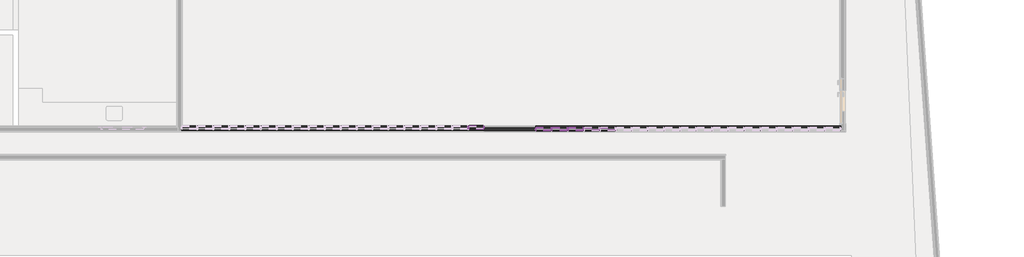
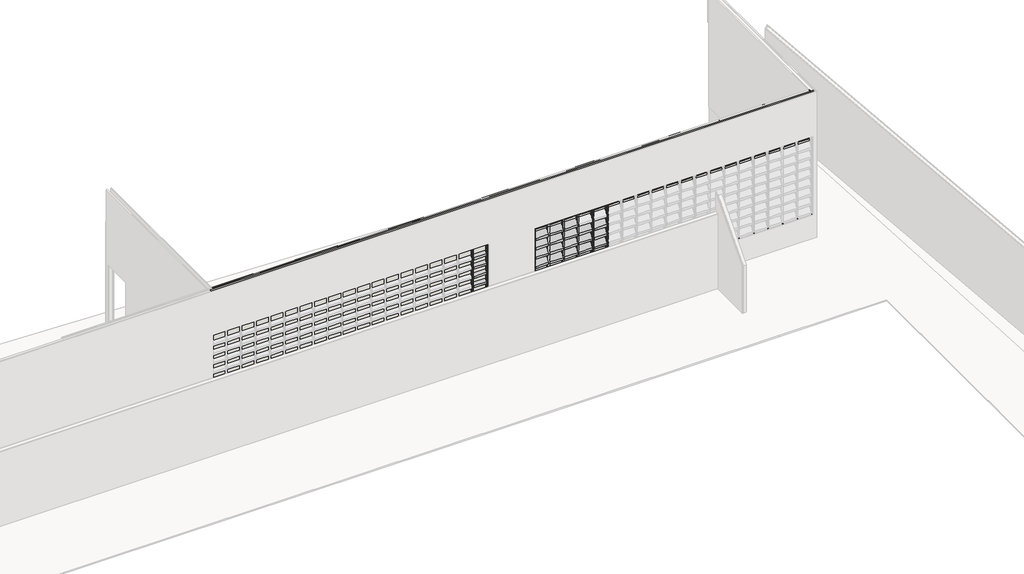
# One storey, part 24 of 28: 126 members, 3 walls.
"""IFC4 building model written with IfcOpenShell, lengths in millimetres."""

from ifc_helpers import new_model, si_unit, frame, origin, place, context, project, spatial, polyline, outline, extrude, faceted_brep, transform, mapped, element, save
from components import montante_retangular_02d07947, montante_retangular_70ba8f4d, montante_retangular_d2e0df8b, montante_retangular_b3938234, montante_retangular_ace9eee9, montante_retangular_c959cb71, montante_retangular_542d65e8, montante_retangular_afd96132, montante_retangular_e99c3e47, montante_retangular_16e63d6c

model = new_model("IFC4")

# Units and contexts
model_context = context("Model", 3, world=origin())
ifc_project = project(units=[si_unit("LENGTHUNIT", "METRE", prefix="MILLI")], contexts=[model_context])

# Site, building, storey
site = spatial("IfcSite", under=ifc_project)
building = spatial("IfcBuilding", under=site)
storey = spatial("IfcBuildingStorey", under=building, Name="Térreo", Elevation=0.0)

# Members
placement = place(None, origin())
montante_retangular_shape = montante_retangular_02d07947(model_context)
element("IfcMember", 1, ObjectType="Montante retangular : FDE_MontanteVenezianaIndustrial_Intermediário_Ref50 (Alumínio Anodizado)", at=placement, inside=storey, context=model_context, shape_type="MappedRepresentation", body=[
    mapped(montante_retangular_shape, transform((-37997.8947371, 48589.0879102, 925.0), x_axis=(1.0, 0.0, 0.0), y_axis=(0.0, -1.0, 0.0), z_axis=(0.0, 0.0, -1.0))),
])
element("IfcMember", 2, ObjectType="Montante retangular : FDE_MontanteVenezianaIndustrial_Intermediário_Ref50 (Alumínio Anodizado)", at=placement, inside=storey, context=model_context, shape_type="MappedRepresentation", body=[
    mapped(montante_retangular_shape, transform((-35888.4210524, 48544.0879102, 925.0), x_axis=(1.0, 0.0, 0.0), y_axis=(0.0, -1.0, 0.0), z_axis=(0.0, 0.0, -1.0))),
])
element("IfcMember", 3, ObjectType="Montante retangular : FDE_MontanteVenezianaIndustrial_Intermediário_Ref50 (Alumínio Anodizado)", at=placement, inside=storey, context=model_context, shape_type="MappedRepresentation", body=[
    mapped(montante_retangular_shape, transform((-35481.842105, 48544.0879102, 925.0), x_axis=(1.0, 0.0, 0.0), y_axis=(0.0, -1.0, 0.0), z_axis=(0.0, 0.0, -1.0))),
])
element("IfcMember", 4, ObjectType="Montante retangular : FDE_MontanteVenezianaIndustrial_Intermediário_Ref50 (Alumínio Anodizado)", at=placement, inside=storey, context=model_context, shape_type="MappedRepresentation", body=[
    mapped(montante_retangular_shape, transform((-35075.2631577, 48544.0879102, 925.0), x_axis=(1.0, 0.0, 0.0), y_axis=(0.0, -1.0, 0.0), z_axis=(0.0, 0.0, -1.0))),
])
element("IfcMember", 5, ObjectType="Montante retangular : FDE_MontanteVenezianaIndustrial_Intermediário_Ref50 (Alumínio Anodizado)", at=placement, inside=storey, context=model_context, shape_type="MappedRepresentation", body=[
    mapped(montante_retangular_shape, transform((-34668.6842103, 48544.0879102, 925.0), x_axis=(1.0, 0.0, 0.0), y_axis=(0.0, -1.0, 0.0), z_axis=(0.0, 0.0, -1.0))),
])
element("IfcMember", 6, ObjectType="Montante retangular : FDE_MontanteVenezianaIndustrial_Intermediário_Ref50 (Alumínio Anodizado)", at=placement, inside=storey, context=model_context, shape_type="MappedRepresentation", body=[
    mapped(montante_retangular_shape, transform((-34262.105263, 48544.0879102, 925.0), x_axis=(1.0, 0.0, 0.0), y_axis=(0.0, -1.0, 0.0), z_axis=(0.0, 0.0, -1.0))),
])
montante_retangular_2_shape = montante_retangular_70ba8f4d(model_context)
element("IfcMember", 7, ObjectType="Montante retangular : FDE_MontanteVenezianaIndustrial_Intermediário_Ref50 (Alumínio Anodizado)", at=placement, inside=storey, context=model_context, shape_type="MappedRepresentation", body=[
    mapped(montante_retangular_2_shape, transform((-37997.8947371, 48589.0879102, 1174.0), x_axis=(1.0, 0.0, 0.0), y_axis=(0.0, -1.0, 0.0), z_axis=(0.0, 0.0, -1.0))),
])
element("IfcMember", 8, ObjectType="Montante retangular : FDE_MontanteVenezianaIndustrial_Intermediário_Ref50 (Alumínio Anodizado)", at=placement, inside=storey, context=model_context, shape_type="MappedRepresentation", body=[
    mapped(montante_retangular_2_shape, transform((-37997.8947371, 48589.0879102, 1448.0), x_axis=(1.0, 0.0, 0.0), y_axis=(0.0, -1.0, 0.0), z_axis=(0.0, 0.0, -1.0))),
])
element("IfcMember", 9, ObjectType="Montante retangular : FDE_MontanteVenezianaIndustrial_Intermediário_Ref50 (Alumínio Anodizado)", at=placement, inside=storey, context=model_context, shape_type="MappedRepresentation", body=[
    mapped(montante_retangular_2_shape, transform((-37997.8947371, 48589.0879102, 1722.0), x_axis=(1.0, 0.0, 0.0), y_axis=(0.0, -1.0, 0.0), z_axis=(0.0, 0.0, -1.0))),
])
element("IfcMember", 10, ObjectType="Montante retangular : FDE_MontanteVenezianaIndustrial_Intermediário_Ref50 (Alumínio Anodizado)", at=placement, inside=storey, context=model_context, shape_type="MappedRepresentation", body=[
    mapped(montante_retangular_2_shape, transform((-37997.8947371, 48589.0879102, 1996.0), x_axis=(1.0, 0.0, 0.0), y_axis=(0.0, -1.0, 0.0), z_axis=(0.0, 0.0, -1.0))),
])
element("IfcMember", 11, ObjectType="Montante retangular : FDE_MontanteVenezianaIndustrial_Intermediário_Ref50 (Alumínio Anodizado)", at=placement, inside=storey, context=model_context, shape_type="MappedRepresentation", body=[
    mapped(montante_retangular_2_shape, transform((-37997.8947371, 48589.0879102, 2270.0), x_axis=(1.0, 0.0, 0.0), y_axis=(0.0, -1.0, 0.0), z_axis=(0.0, 0.0, -1.0))),
])
element("IfcMember", 12, ObjectType="Montante retangular : FDE_MontanteVenezianaIndustrial_Intermediário_Ref50 (Alumínio Anodizado)", at=placement, inside=storey, context=model_context, shape_type="MappedRepresentation", body=[
    mapped(montante_retangular_2_shape, transform((-37997.8947371, 48589.0879102, 2544.0), x_axis=(1.0, 0.0, 0.0), y_axis=(0.0, -1.0, 0.0), z_axis=(0.0, 0.0, -1.0))),
])
element("IfcMember", 13, ObjectType="Montante retangular : FDE_MontanteVenezianaIndustrial_Intermediário_Ref50 (Alumínio Anodizado)", at=placement, inside=storey, context=model_context, shape_type="MappedRepresentation", body=[
    mapped(montante_retangular_2_shape, transform((-37997.8947371, 48589.0879102, 2818.0), x_axis=(1.0, 0.0, 0.0), y_axis=(0.0, -1.0, 0.0), z_axis=(0.0, 0.0, -1.0))),
])
element("IfcMember", 14, ObjectType="Montante retangular : FDE_MontanteVenezianaIndustrial_Intermediário_Ref50 (Alumínio Anodizado)", at=placement, inside=storey, context=model_context, shape_type="MappedRepresentation", body=[
    mapped(montante_retangular_2_shape, transform((-35888.4210524, 48544.0879102, 1174.0), x_axis=(1.0, 0.0, 0.0), y_axis=(0.0, -1.0, 0.0), z_axis=(0.0, 0.0, -1.0))),
])
element("IfcMember", 15, ObjectType="Montante retangular : FDE_MontanteVenezianaIndustrial_Intermediário_Ref50 (Alumínio Anodizado)", at=placement, inside=storey, context=model_context, shape_type="MappedRepresentation", body=[
    mapped(montante_retangular_2_shape, transform((-35481.842105, 48544.0879102, 1174.0), x_axis=(1.0, 0.0, 0.0), y_axis=(0.0, -1.0, 0.0), z_axis=(0.0, 0.0, -1.0))),
])
element("IfcMember", 16, ObjectType="Montante retangular : FDE_MontanteVenezianaIndustrial_Intermediário_Ref50 (Alumínio Anodizado)", at=placement, inside=storey, context=model_context, shape_type="MappedRepresentation", body=[
    mapped(montante_retangular_2_shape, transform((-35075.2631577, 48544.0879102, 1174.0), x_axis=(1.0, 0.0, 0.0), y_axis=(0.0, -1.0, 0.0), z_axis=(0.0, 0.0, -1.0))),
])
element("IfcMember", 17, ObjectType="Montante retangular : FDE_MontanteVenezianaIndustrial_Intermediário_Ref50 (Alumínio Anodizado)", at=placement, inside=storey, context=model_context, shape_type="MappedRepresentation", body=[
    mapped(montante_retangular_2_shape, transform((-34668.6842103, 48544.0879102, 1174.0), x_axis=(1.0, 0.0, 0.0), y_axis=(0.0, -1.0, 0.0), z_axis=(0.0, 0.0, -1.0))),
])
element("IfcMember", 18, ObjectType="Montante retangular : FDE_MontanteVenezianaIndustrial_Intermediário_Ref50 (Alumínio Anodizado)", at=placement, inside=storey, context=model_context, shape_type="MappedRepresentation", body=[
    mapped(montante_retangular_2_shape, transform((-34262.105263, 48544.0879102, 1174.0), x_axis=(1.0, 0.0, 0.0), y_axis=(0.0, -1.0, 0.0), z_axis=(0.0, 0.0, -1.0))),
])
element("IfcMember", 19, ObjectType="Montante retangular : FDE_MontanteVenezianaIndustrial_Intermediário_Ref50 (Alumínio Anodizado)", at=placement, inside=storey, context=model_context, shape_type="MappedRepresentation", body=[
    mapped(montante_retangular_2_shape, transform((-35888.4210524, 48544.0879102, 1448.0), x_axis=(1.0, 0.0, 0.0), y_axis=(0.0, -1.0, 0.0), z_axis=(0.0, 0.0, -1.0))),
])
element("IfcMember", 20, ObjectType="Montante retangular : FDE_MontanteVenezianaIndustrial_Intermediário_Ref50 (Alumínio Anodizado)", at=placement, inside=storey, context=model_context, shape_type="MappedRepresentation", body=[
    mapped(montante_retangular_2_shape, transform((-35481.842105, 48544.0879102, 1448.0), x_axis=(1.0, 0.0, 0.0), y_axis=(0.0, -1.0, 0.0), z_axis=(0.0, 0.0, -1.0))),
])
element("IfcMember", 21, ObjectType="Montante retangular : FDE_MontanteVenezianaIndustrial_Intermediário_Ref50 (Alumínio Anodizado)", at=placement, inside=storey, context=model_context, shape_type="MappedRepresentation", body=[
    mapped(montante_retangular_2_shape, transform((-35075.2631577, 48544.0879102, 1448.0), x_axis=(1.0, 0.0, 0.0), y_axis=(0.0, -1.0, 0.0), z_axis=(0.0, 0.0, -1.0))),
])
element("IfcMember", 22, ObjectType="Montante retangular : FDE_MontanteVenezianaIndustrial_Intermediário_Ref50 (Alumínio Anodizado)", at=placement, inside=storey, context=model_context, shape_type="MappedRepresentation", body=[
    mapped(montante_retangular_2_shape, transform((-34668.6842103, 48544.0879102, 1448.0), x_axis=(1.0, 0.0, 0.0), y_axis=(0.0, -1.0, 0.0), z_axis=(0.0, 0.0, -1.0))),
])
element("IfcMember", 23, ObjectType="Montante retangular : FDE_MontanteVenezianaIndustrial_Intermediário_Ref50 (Alumínio Anodizado)", at=placement, inside=storey, context=model_context, shape_type="MappedRepresentation", body=[
    mapped(montante_retangular_2_shape, transform((-34262.105263, 48544.0879102, 1448.0), x_axis=(1.0, 0.0, 0.0), y_axis=(0.0, -1.0, 0.0), z_axis=(0.0, 0.0, -1.0))),
])
element("IfcMember", 24, ObjectType="Montante retangular : FDE_MontanteVenezianaIndustrial_Intermediário_Ref50 (Alumínio Anodizado)", at=placement, inside=storey, context=model_context, shape_type="MappedRepresentation", body=[
    mapped(montante_retangular_2_shape, transform((-35888.4210524, 48544.0879102, 1722.0), x_axis=(1.0, 0.0, 0.0), y_axis=(0.0, -1.0, 0.0), z_axis=(0.0, 0.0, -1.0))),
])
element("IfcMember", 25, ObjectType="Montante retangular : FDE_MontanteVenezianaIndustrial_Intermediário_Ref50 (Alumínio Anodizado)", at=placement, inside=storey, context=model_context, shape_type="MappedRepresentation", body=[
    mapped(montante_retangular_2_shape, transform((-35481.842105, 48544.0879102, 1722.0), x_axis=(1.0, 0.0, 0.0), y_axis=(0.0, -1.0, 0.0), z_axis=(0.0, 0.0, -1.0))),
])
element("IfcMember", 26, ObjectType="Montante retangular : FDE_MontanteVenezianaIndustrial_Intermediário_Ref50 (Alumínio Anodizado)", at=placement, inside=storey, context=model_context, shape_type="MappedRepresentation", body=[
    mapped(montante_retangular_2_shape, transform((-35075.2631577, 48544.0879102, 1722.0), x_axis=(1.0, 0.0, 0.0), y_axis=(0.0, -1.0, 0.0), z_axis=(0.0, 0.0, -1.0))),
])
element("IfcMember", 27, ObjectType="Montante retangular : FDE_MontanteVenezianaIndustrial_Intermediário_Ref50 (Alumínio Anodizado)", at=placement, inside=storey, context=model_context, shape_type="MappedRepresentation", body=[
    mapped(montante_retangular_2_shape, transform((-34668.6842103, 48544.0879102, 1722.0), x_axis=(1.0, 0.0, 0.0), y_axis=(0.0, -1.0, 0.0), z_axis=(0.0, 0.0, -1.0))),
])
element("IfcMember", 28, ObjectType="Montante retangular : FDE_MontanteVenezianaIndustrial_Intermediário_Ref50 (Alumínio Anodizado)", at=placement, inside=storey, context=model_context, shape_type="MappedRepresentation", body=[
    mapped(montante_retangular_2_shape, transform((-34262.105263, 48544.0879102, 1722.0), x_axis=(1.0, 0.0, 0.0), y_axis=(0.0, -1.0, 0.0), z_axis=(0.0, 0.0, -1.0))),
])
element("IfcMember", 29, ObjectType="Montante retangular : FDE_MontanteVenezianaIndustrial_Intermediário_Ref50 (Alumínio Anodizado)", at=placement, inside=storey, context=model_context, shape_type="MappedRepresentation", body=[
    mapped(montante_retangular_2_shape, transform((-35888.4210524, 48544.0879102, 1996.0), x_axis=(1.0, 0.0, 0.0), y_axis=(0.0, -1.0, 0.0), z_axis=(0.0, 0.0, -1.0))),
])
element("IfcMember", 30, ObjectType="Montante retangular : FDE_MontanteVenezianaIndustrial_Intermediário_Ref50 (Alumínio Anodizado)", at=placement, inside=storey, context=model_context, shape_type="MappedRepresentation", body=[
    mapped(montante_retangular_2_shape, transform((-35481.842105, 48544.0879102, 1996.0), x_axis=(1.0, 0.0, 0.0), y_axis=(0.0, -1.0, 0.0), z_axis=(0.0, 0.0, -1.0))),
])
element("IfcMember", 31, ObjectType="Montante retangular : FDE_MontanteVenezianaIndustrial_Intermediário_Ref50 (Alumínio Anodizado)", at=placement, inside=storey, context=model_context, shape_type="MappedRepresentation", body=[
    mapped(montante_retangular_2_shape, transform((-35075.2631577, 48544.0879102, 1996.0), x_axis=(1.0, 0.0, 0.0), y_axis=(0.0, -1.0, 0.0), z_axis=(0.0, 0.0, -1.0))),
])
element("IfcMember", 32, ObjectType="Montante retangular : FDE_MontanteVenezianaIndustrial_Intermediário_Ref50 (Alumínio Anodizado)", at=placement, inside=storey, context=model_context, shape_type="MappedRepresentation", body=[
    mapped(montante_retangular_2_shape, transform((-34668.6842103, 48544.0879102, 1996.0), x_axis=(1.0, 0.0, 0.0), y_axis=(0.0, -1.0, 0.0), z_axis=(0.0, 0.0, -1.0))),
])
element("IfcMember", 33, ObjectType="Montante retangular : FDE_MontanteVenezianaIndustrial_Intermediário_Ref50 (Alumínio Anodizado)", at=placement, inside=storey, context=model_context, shape_type="MappedRepresentation", body=[
    mapped(montante_retangular_2_shape, transform((-34262.105263, 48544.0879102, 1996.0), x_axis=(1.0, 0.0, 0.0), y_axis=(0.0, -1.0, 0.0), z_axis=(0.0, 0.0, -1.0))),
])
element("IfcMember", 34, ObjectType="Montante retangular : FDE_MontanteVenezianaIndustrial_Intermediário_Ref50 (Alumínio Anodizado)", at=placement, inside=storey, context=model_context, shape_type="MappedRepresentation", body=[
    mapped(montante_retangular_2_shape, transform((-35888.4210524, 48544.0879102, 2270.0), x_axis=(1.0, 0.0, 0.0), y_axis=(0.0, -1.0, 0.0), z_axis=(0.0, 0.0, -1.0))),
])
element("IfcMember", 35, ObjectType="Montante retangular : FDE_MontanteVenezianaIndustrial_Intermediário_Ref50 (Alumínio Anodizado)", at=placement, inside=storey, context=model_context, shape_type="MappedRepresentation", body=[
    mapped(montante_retangular_2_shape, transform((-35481.842105, 48544.0879102, 2270.0), x_axis=(1.0, 0.0, 0.0), y_axis=(0.0, -1.0, 0.0), z_axis=(0.0, 0.0, -1.0))),
])
element("IfcMember", 36, ObjectType="Montante retangular : FDE_MontanteVenezianaIndustrial_Intermediário_Ref50 (Alumínio Anodizado)", at=placement, inside=storey, context=model_context, shape_type="MappedRepresentation", body=[
    mapped(montante_retangular_2_shape, transform((-35075.2631577, 48544.0879102, 2270.0), x_axis=(1.0, 0.0, 0.0), y_axis=(0.0, -1.0, 0.0), z_axis=(0.0, 0.0, -1.0))),
])
element("IfcMember", 37, ObjectType="Montante retangular : FDE_MontanteVenezianaIndustrial_Intermediário_Ref50 (Alumínio Anodizado)", at=placement, inside=storey, context=model_context, shape_type="MappedRepresentation", body=[
    mapped(montante_retangular_2_shape, transform((-34668.6842103, 48544.0879102, 2270.0), x_axis=(1.0, 0.0, 0.0), y_axis=(0.0, -1.0, 0.0), z_axis=(0.0, 0.0, -1.0))),
])
element("IfcMember", 38, ObjectType="Montante retangular : FDE_MontanteVenezianaIndustrial_Intermediário_Ref50 (Alumínio Anodizado)", at=placement, inside=storey, context=model_context, shape_type="MappedRepresentation", body=[
    mapped(montante_retangular_2_shape, transform((-34262.105263, 48544.0879102, 2270.0), x_axis=(1.0, 0.0, 0.0), y_axis=(0.0, -1.0, 0.0), z_axis=(0.0, 0.0, -1.0))),
])
element("IfcMember", 39, ObjectType="Montante retangular : FDE_MontanteVenezianaIndustrial_Intermediário_Ref50 (Alumínio Anodizado)", at=placement, inside=storey, context=model_context, shape_type="MappedRepresentation", body=[
    mapped(montante_retangular_2_shape, transform((-35888.4210524, 48544.0879102, 2544.0), x_axis=(1.0, 0.0, 0.0), y_axis=(0.0, -1.0, 0.0), z_axis=(0.0, 0.0, -1.0))),
])
element("IfcMember", 40, ObjectType="Montante retangular : FDE_MontanteVenezianaIndustrial_Intermediário_Ref50 (Alumínio Anodizado)", at=placement, inside=storey, context=model_context, shape_type="MappedRepresentation", body=[
    mapped(montante_retangular_2_shape, transform((-35481.842105, 48544.0879102, 2544.0), x_axis=(1.0, 0.0, 0.0), y_axis=(0.0, -1.0, 0.0), z_axis=(0.0, 0.0, -1.0))),
])
element("IfcMember", 41, ObjectType="Montante retangular : FDE_MontanteVenezianaIndustrial_Intermediário_Ref50 (Alumínio Anodizado)", at=placement, inside=storey, context=model_context, shape_type="MappedRepresentation", body=[
    mapped(montante_retangular_2_shape, transform((-35075.2631577, 48544.0879102, 2544.0), x_axis=(1.0, 0.0, 0.0), y_axis=(0.0, -1.0, 0.0), z_axis=(0.0, 0.0, -1.0))),
])
element("IfcMember", 42, ObjectType="Montante retangular : FDE_MontanteVenezianaIndustrial_Intermediário_Ref50 (Alumínio Anodizado)", at=placement, inside=storey, context=model_context, shape_type="MappedRepresentation", body=[
    mapped(montante_retangular_2_shape, transform((-34668.6842103, 48544.0879102, 2544.0), x_axis=(1.0, 0.0, 0.0), y_axis=(0.0, -1.0, 0.0), z_axis=(0.0, 0.0, -1.0))),
])
element("IfcMember", 43, ObjectType="Montante retangular : FDE_MontanteVenezianaIndustrial_Intermediário_Ref50 (Alumínio Anodizado)", at=placement, inside=storey, context=model_context, shape_type="MappedRepresentation", body=[
    mapped(montante_retangular_2_shape, transform((-34262.105263, 48544.0879102, 2544.0), x_axis=(1.0, 0.0, 0.0), y_axis=(0.0, -1.0, 0.0), z_axis=(0.0, 0.0, -1.0))),
])
element("IfcMember", 44, ObjectType="Montante retangular : FDE_MontanteVenezianaIndustrial_Intermediário_Ref50 (Alumínio Anodizado)", at=placement, inside=storey, context=model_context, shape_type="MappedRepresentation", body=[
    mapped(montante_retangular_2_shape, transform((-35888.4210524, 48544.0879102, 2818.0), x_axis=(1.0, 0.0, 0.0), y_axis=(0.0, -1.0, 0.0), z_axis=(0.0, 0.0, -1.0))),
])
element("IfcMember", 45, ObjectType="Montante retangular : FDE_MontanteVenezianaIndustrial_Intermediário_Ref50 (Alumínio Anodizado)", at=placement, inside=storey, context=model_context, shape_type="MappedRepresentation", body=[
    mapped(montante_retangular_2_shape, transform((-35481.842105, 48544.0879102, 2818.0), x_axis=(1.0, 0.0, 0.0), y_axis=(0.0, -1.0, 0.0), z_axis=(0.0, 0.0, -1.0))),
])
element("IfcMember", 46, ObjectType="Montante retangular : FDE_MontanteVenezianaIndustrial_Intermediário_Ref50 (Alumínio Anodizado)", at=placement, inside=storey, context=model_context, shape_type="MappedRepresentation", body=[
    mapped(montante_retangular_2_shape, transform((-35075.2631577, 48544.0879102, 2818.0), x_axis=(1.0, 0.0, 0.0), y_axis=(0.0, -1.0, 0.0), z_axis=(0.0, 0.0, -1.0))),
])
element("IfcMember", 47, ObjectType="Montante retangular : FDE_MontanteVenezianaIndustrial_Intermediário_Ref50 (Alumínio Anodizado)", at=placement, inside=storey, context=model_context, shape_type="MappedRepresentation", body=[
    mapped(montante_retangular_2_shape, transform((-34668.6842103, 48544.0879102, 2818.0), x_axis=(1.0, 0.0, 0.0), y_axis=(0.0, -1.0, 0.0), z_axis=(0.0, 0.0, -1.0))),
])
element("IfcMember", 48, ObjectType="Montante retangular : FDE_MontanteVenezianaIndustrial_Intermediário_Ref50 (Alumínio Anodizado)", at=placement, inside=storey, context=model_context, shape_type="MappedRepresentation", body=[
    mapped(montante_retangular_2_shape, transform((-34262.105263, 48544.0879102, 2818.0), x_axis=(1.0, 0.0, 0.0), y_axis=(0.0, -1.0, 0.0), z_axis=(0.0, 0.0, -1.0))),
])
montante_retangular_3_shape = montante_retangular_d2e0df8b(model_context)
element("IfcMember", 49, ObjectType="Montante retangular : FDE_MontanteVenezianaIndustrial_BordaOpção2_Ref50 (Alumínio Anodizado)", at=placement, inside=storey, context=model_context, shape_type="MappedRepresentation", body=[
    mapped(montante_retangular_3_shape, transform((-37595.0, 48589.0879102, 1722.0), x_axis=(1.0, 0.0, 0.0), y_axis=(0.0, -1.0, 0.0), z_axis=(0.0, 0.0, -1.0))),
])
element("IfcMember", 50, ObjectType="Montante retangular : FDE_MontanteVenezianaIndustrial_BordaOpção2_Ref50 (Alumínio Anodizado)", at=placement, inside=storey, context=model_context, shape_type="MappedRepresentation", body=[
    mapped(montante_retangular_3_shape, transform((-37595.0, 48589.0879102, 1996.0), x_axis=(1.0, 0.0, 0.0), y_axis=(0.0, -1.0, 0.0), z_axis=(0.0, 0.0, -1.0))),
])
element("IfcMember", 51, ObjectType="Montante retangular : FDE_MontanteVenezianaIndustrial_BordaOpção2_Ref50 (Alumínio Anodizado)", at=placement, inside=storey, context=model_context, shape_type="MappedRepresentation", body=[
    mapped(montante_retangular_3_shape, transform((-37595.0, 48589.0879102, 2270.0), x_axis=(1.0, 0.0, 0.0), y_axis=(0.0, -1.0, 0.0), z_axis=(0.0, 0.0, -1.0))),
])
element("IfcMember", 52, ObjectType="Montante retangular : FDE_MontanteVenezianaIndustrial_BordaOpção2_Ref50 (Alumínio Anodizado)", at=placement, inside=storey, context=model_context, shape_type="MappedRepresentation", body=[
    mapped(montante_retangular_3_shape, transform((-37595.0, 48589.0879102, 2544.0), x_axis=(1.0, 0.0, 0.0), y_axis=(0.0, -1.0, 0.0), z_axis=(0.0, 0.0, -1.0))),
])
element("IfcMember", 53, ObjectType="Montante retangular : FDE_MontanteVenezianaIndustrial_BordaOpção2_Ref50 (Alumínio Anodizado)", at=placement, inside=storey, context=model_context, shape_type="MappedRepresentation", body=[
    mapped(montante_retangular_3_shape, transform((-37595.0, 48589.0879102, 2818.0), x_axis=(1.0, 0.0, 0.0), y_axis=(0.0, -1.0, 0.0), z_axis=(0.0, 0.0, -1.0))),
])
montante_retangular_4_shape = montante_retangular_b3938234(model_context)
element("IfcMember", 54, ObjectType="Montante retangular : FDE_MontanteVenezianaIndustrial_BordaOpção1_Ref50 (Alumínio Anodizado)", at=placement, inside=storey, context=model_context, shape_type="MappedRepresentation", body=[
    mapped(montante_retangular_4_shape, transform((-36295.0, 48544.0879102, 1174.0), x_axis=(-1.0, 0.0, 0.0), y_axis=(0.0, -1.0, 0.0), z_axis=(0.0, 0.0, 1.0))),
])
element("IfcMember", 55, ObjectType="Montante retangular : FDE_MontanteVenezianaIndustrial_BordaOpção1_Ref50 (Alumínio Anodizado)", at=placement, inside=storey, context=model_context, shape_type="MappedRepresentation", body=[
    mapped(montante_retangular_3_shape, transform((-36295.0, 48544.0879102, 1448.0), x_axis=(-1.0, 0.0, 0.0), y_axis=(0.0, -1.0, 0.0), z_axis=(0.0, 0.0, 1.0))),
])
element("IfcMember", 56, ObjectType="Montante retangular : FDE_MontanteVenezianaIndustrial_BordaOpção1_Ref50 (Alumínio Anodizado)", at=placement, inside=storey, context=model_context, shape_type="MappedRepresentation", body=[
    mapped(montante_retangular_3_shape, transform((-36295.0, 48544.0879102, 1722.0), x_axis=(-1.0, 0.0, 0.0), y_axis=(0.0, -1.0, 0.0), z_axis=(0.0, 0.0, 1.0))),
])
element("IfcMember", 57, ObjectType="Montante retangular : FDE_MontanteVenezianaIndustrial_BordaOpção1_Ref50 (Alumínio Anodizado)", at=placement, inside=storey, context=model_context, shape_type="MappedRepresentation", body=[
    mapped(montante_retangular_3_shape, transform((-36295.0, 48544.0879102, 1996.0), x_axis=(-1.0, 0.0, 0.0), y_axis=(0.0, -1.0, 0.0), z_axis=(0.0, 0.0, 1.0))),
])
element("IfcMember", 58, ObjectType="Montante retangular : FDE_MontanteVenezianaIndustrial_BordaOpção1_Ref50 (Alumínio Anodizado)", at=placement, inside=storey, context=model_context, shape_type="MappedRepresentation", body=[
    mapped(montante_retangular_3_shape, transform((-36295.0, 48544.0879102, 2270.0), x_axis=(-1.0, 0.0, 0.0), y_axis=(0.0, -1.0, 0.0), z_axis=(0.0, 0.0, 1.0))),
])
element("IfcMember", 59, ObjectType="Montante retangular : FDE_MontanteVenezianaIndustrial_BordaOpção1_Ref50 (Alumínio Anodizado)", at=placement, inside=storey, context=model_context, shape_type="MappedRepresentation", body=[
    mapped(montante_retangular_3_shape, transform((-36295.0, 48544.0879102, 2544.0), x_axis=(-1.0, 0.0, 0.0), y_axis=(0.0, -1.0, 0.0), z_axis=(0.0, 0.0, 1.0))),
])
element("IfcMember", 60, ObjectType="Montante retangular : FDE_MontanteVenezianaIndustrial_BordaOpção1_Ref50 (Alumínio Anodizado)", at=placement, inside=storey, context=model_context, shape_type="MappedRepresentation", body=[
    mapped(montante_retangular_3_shape, transform((-36295.0, 48544.0879102, 2818.0), x_axis=(-1.0, 0.0, 0.0), y_axis=(0.0, -1.0, 0.0), z_axis=(0.0, 0.0, 1.0))),
])
element("IfcMember", 61, ObjectType="Montante retangular : FDE_MontanteVenezianaIndustrial_BordaOpção1_Ref50 (Alumínio Anodizado)", at=placement, inside=storey, context=model_context, shape_type="MappedRepresentation", body=[
    mapped(montante_retangular_3_shape, transform((-36295.0, 48544.0879102, 3092.0), x_axis=(-1.0, 0.0, 0.0), y_axis=(0.0, -1.0, 0.0), z_axis=(0.0, 0.0, 1.0))),
])
montante_retangular_5_shape = montante_retangular_ace9eee9(model_context)
element("IfcMember", 62, ObjectType="Montante retangular : FDE_MontanteVenezianaIndustrial_Intermediário_Ref50 (Alumínio Anodizado)", at=placement, inside=storey, context=model_context, shape_type="MappedRepresentation", body=[
    mapped(montante_retangular_5_shape, transform((-37997.8947371, 48589.0879102, 3092.0), x_axis=(1.0, 0.0, 0.0), y_axis=(0.0, -1.0, 0.0), z_axis=(0.0, 0.0, -1.0))),
])
element("IfcMember", 63, ObjectType="Montante retangular : FDE_MontanteVenezianaIndustrial_Intermediário_Ref50 (Alumínio Anodizado)", at=placement, inside=storey, context=model_context, shape_type="MappedRepresentation", body=[
    mapped(montante_retangular_5_shape, transform((-35888.4210524, 48544.0879102, 3092.0), x_axis=(1.0, 0.0, 0.0), y_axis=(0.0, -1.0, 0.0), z_axis=(0.0, 0.0, -1.0))),
])
element("IfcMember", 64, ObjectType="Montante retangular : FDE_MontanteVenezianaIndustrial_Intermediário_Ref50 (Alumínio Anodizado)", at=placement, inside=storey, context=model_context, shape_type="MappedRepresentation", body=[
    mapped(montante_retangular_5_shape, transform((-35481.842105, 48544.0879102, 3092.0), x_axis=(1.0, 0.0, 0.0), y_axis=(0.0, -1.0, 0.0), z_axis=(0.0, 0.0, -1.0))),
])
element("IfcMember", 65, ObjectType="Montante retangular : FDE_MontanteVenezianaIndustrial_Intermediário_Ref50 (Alumínio Anodizado)", at=placement, inside=storey, context=model_context, shape_type="MappedRepresentation", body=[
    mapped(montante_retangular_5_shape, transform((-35075.2631577, 48544.0879102, 3092.0), x_axis=(1.0, 0.0, 0.0), y_axis=(0.0, -1.0, 0.0), z_axis=(0.0, 0.0, -1.0))),
])
element("IfcMember", 66, ObjectType="Montante retangular : FDE_MontanteVenezianaIndustrial_Intermediário_Ref50 (Alumínio Anodizado)", at=placement, inside=storey, context=model_context, shape_type="MappedRepresentation", body=[
    mapped(montante_retangular_5_shape, transform((-34668.6842103, 48544.0879102, 3092.0), x_axis=(1.0, 0.0, 0.0), y_axis=(0.0, -1.0, 0.0), z_axis=(0.0, 0.0, -1.0))),
])
element("IfcMember", 67, ObjectType="Montante retangular : FDE_MontanteVenezianaIndustrial_Intermediário_Ref50 (Alumínio Anodizado)", at=placement, inside=storey, context=model_context, shape_type="MappedRepresentation", body=[
    mapped(montante_retangular_5_shape, transform((-34262.105263, 48544.0879102, 3092.0), x_axis=(1.0, 0.0, 0.0), y_axis=(0.0, -1.0, 0.0), z_axis=(0.0, 0.0, -1.0))),
])
montante_retangular_6_shape = montante_retangular_c959cb71(model_context)
element("IfcMember", 68, ObjectType="Montante retangular : FDE_MontanteVenezianaIndustrial_BordaOpção1_Ref50 (Alumínio Anodizado)", at=placement, inside=storey, context=model_context, shape_type="MappedRepresentation", body=[
    mapped(montante_retangular_6_shape, transform((-36295.0, 48544.0879102, 3175.0), x_axis=(-1.0, 0.0, 0.0), y_axis=(0.0, -1.0, 0.0), z_axis=(0.0, 0.0, 1.0))),
])
element("IfcMember", 69, ObjectType="Montante retangular : FDE_MontanteVenezianaIndustrial_BordaOpção2_Ref50 (Alumínio Anodizado)", at=placement, inside=storey, context=model_context, shape_type="MappedRepresentation", body=[
    mapped(montante_retangular_6_shape, transform((-37595.0, 48589.0879102, 3092.0), x_axis=(1.0, 0.0, 0.0), y_axis=(0.0, -1.0, 0.0), z_axis=(0.0, 0.0, -1.0))),
])
montante_retangular_7_shape = montante_retangular_542d65e8(model_context)
element("IfcMember", 70, ObjectType="Montante retangular : FDE_MontanteVenezianaIndustrial_BordaOpção2_Ref50 (Alumínio Anodizado)", at=placement, inside=storey, context=model_context, shape_type="MappedRepresentation", body=[
    mapped(montante_retangular_7_shape, transform((-35888.4210524, 48544.0879102, 3200.0), x_axis=(0.0, 0.0, 1.0), y_axis=(0.0, -1.0, 0.0), z_axis=(1.0, 0.0, 0.0))),
])
montante_retangular_8_shape = montante_retangular_afd96132(model_context)
element("IfcMember", 71, ObjectType="Montante retangular : FDE_MontanteVenezianaIndustrial_BordaOpção2_Ref50 (Alumínio Anodizado)", at=placement, inside=storey, context=model_context, shape_type="MappedRepresentation", body=[
    mapped(montante_retangular_8_shape, transform((-35481.842105, 48544.0879102, 3200.0), x_axis=(0.0, 0.0, 1.0), y_axis=(0.0, -1.0, 0.0), z_axis=(1.0, 0.0, 0.0))),
])
element("IfcMember", 72, ObjectType="Montante retangular : FDE_MontanteVenezianaIndustrial_BordaOpção2_Ref50 (Alumínio Anodizado)", at=placement, inside=storey, context=model_context, shape_type="MappedRepresentation", body=[
    mapped(montante_retangular_8_shape, transform((-35075.2631577, 48544.0879102, 3200.0), x_axis=(0.0, 0.0, 1.0), y_axis=(0.0, -1.0, 0.0), z_axis=(1.0, 0.0, 0.0))),
])
element("IfcMember", 73, ObjectType="Montante retangular : FDE_MontanteVenezianaIndustrial_BordaOpção2_Ref50 (Alumínio Anodizado)", at=placement, inside=storey, context=model_context, shape_type="MappedRepresentation", body=[
    mapped(montante_retangular_8_shape, transform((-34668.6842103, 48544.0879102, 3200.0), x_axis=(0.0, 0.0, 1.0), y_axis=(0.0, -1.0, 0.0), z_axis=(1.0, 0.0, 0.0))),
])
element("IfcMember", 74, ObjectType="Montante retangular : FDE_MontanteVenezianaIndustrial_BordaOpção2_Ref50 (Alumínio Anodizado)", at=placement, inside=storey, context=model_context, shape_type="MappedRepresentation", body=[
    mapped(montante_retangular_8_shape, transform((-34262.105263, 48544.0879102, 3200.0), x_axis=(0.0, 0.0, 1.0), y_axis=(0.0, -1.0, 0.0), z_axis=(1.0, 0.0, 0.0))),
])
element("IfcMember", 75, ObjectType="Montante retangular : FDE_MontanteVenezianaIndustrial_BordaOpção1_Ref50 (Alumínio Anodizado)", at=placement, inside=storey, context=model_context, shape_type="MappedRepresentation", body=[
    mapped(montante_retangular_7_shape, transform((-36295.0, 48544.0879102, 900.0), x_axis=(0.0, 0.0, -1.0), y_axis=(0.0, -1.0, 0.0), z_axis=(-1.0, 0.0, 0.0))),
])
element("IfcMember", 76, ObjectType="Montante retangular : FDE_MontanteVenezianaIndustrial_BordaOpção1_Ref50 (Alumínio Anodizado)", at=placement, inside=storey, context=model_context, shape_type="MappedRepresentation", body=[
    mapped(montante_retangular_8_shape, transform((-35888.4210524, 48544.0879102, 900.0), x_axis=(0.0, 0.0, -1.0), y_axis=(0.0, -1.0, 0.0), z_axis=(-1.0, 0.0, 0.0))),
])
element("IfcMember", 77, ObjectType="Montante retangular : FDE_MontanteVenezianaIndustrial_BordaOpção1_Ref50 (Alumínio Anodizado)", at=placement, inside=storey, context=model_context, shape_type="MappedRepresentation", body=[
    mapped(montante_retangular_8_shape, transform((-35481.842105, 48544.0879102, 900.0), x_axis=(0.0, 0.0, -1.0), y_axis=(0.0, -1.0, 0.0), z_axis=(-1.0, 0.0, 0.0))),
])
element("IfcMember", 78, ObjectType="Montante retangular : FDE_MontanteVenezianaIndustrial_BordaOpção1_Ref50 (Alumínio Anodizado)", at=placement, inside=storey, context=model_context, shape_type="MappedRepresentation", body=[
    mapped(montante_retangular_8_shape, transform((-35075.2631577, 48544.0879102, 900.0), x_axis=(0.0, 0.0, -1.0), y_axis=(0.0, -1.0, 0.0), z_axis=(-1.0, 0.0, 0.0))),
])
element("IfcMember", 79, ObjectType="Montante retangular : FDE_MontanteVenezianaIndustrial_BordaOpção1_Ref50 (Alumínio Anodizado)", at=placement, inside=storey, context=model_context, shape_type="MappedRepresentation", body=[
    mapped(montante_retangular_8_shape, transform((-34668.6842103, 48544.0879102, 900.0), x_axis=(0.0, 0.0, -1.0), y_axis=(0.0, -1.0, 0.0), z_axis=(-1.0, 0.0, 0.0))),
])
element("IfcMember", 80, ObjectType="Montante retangular : FDE_MontanteVenezianaIndustrial_BordaOpção1_Ref50 (Alumínio Anodizado)", at=placement, inside=storey, context=model_context, shape_type="MappedRepresentation", body=[
    mapped(montante_retangular_8_shape, transform((-34262.105263, 48544.0879102, 900.0), x_axis=(0.0, 0.0, -1.0), y_axis=(0.0, -1.0, 0.0), z_axis=(-1.0, 0.0, 0.0))),
])
montante_retangular_9_shape = montante_retangular_e99c3e47(model_context)
element("IfcMember", 81, ObjectType="Montante retangular : FDE_AletaVenezianaIndustrial_Ref100 (Alumínio Anodizado)", at=placement, inside=storey, context=model_context, shape_type="MappedRepresentation", body=[
    mapped(montante_retangular_9_shape, transform((-35913.4210524, 48544.0879102, 1174.0), x_axis=(0.0, 0.0, 1.0), y_axis=(0.0, -1.0, 0.0), z_axis=(1.0, 0.0, 0.0))),
])
element("IfcMember", 82, ObjectType="Montante retangular : FDE_AletaVenezianaIndustrial_Ref100 (Alumínio Anodizado)", at=placement, inside=storey, context=model_context, shape_type="MappedRepresentation", body=[
    mapped(montante_retangular_9_shape, transform((-35506.842105, 48544.0879102, 1174.0), x_axis=(0.0, 0.0, 1.0), y_axis=(0.0, -1.0, 0.0), z_axis=(1.0, 0.0, 0.0))),
])
element("IfcMember", 83, ObjectType="Montante retangular : FDE_AletaVenezianaIndustrial_Ref100 (Alumínio Anodizado)", at=placement, inside=storey, context=model_context, shape_type="MappedRepresentation", body=[
    mapped(montante_retangular_9_shape, transform((-35100.2631577, 48544.0879102, 1174.0), x_axis=(0.0, 0.0, 1.0), y_axis=(0.0, -1.0, 0.0), z_axis=(1.0, 0.0, 0.0))),
])
element("IfcMember", 84, ObjectType="Montante retangular : FDE_AletaVenezianaIndustrial_Ref100 (Alumínio Anodizado)", at=placement, inside=storey, context=model_context, shape_type="MappedRepresentation", body=[
    mapped(montante_retangular_9_shape, transform((-34693.6842103, 48544.0879102, 1174.0), x_axis=(0.0, 0.0, 1.0), y_axis=(0.0, -1.0, 0.0), z_axis=(1.0, 0.0, 0.0))),
])
element("IfcMember", 85, ObjectType="Montante retangular : FDE_AletaVenezianaIndustrial_Ref100 (Alumínio Anodizado)", at=placement, inside=storey, context=model_context, shape_type="MappedRepresentation", body=[
    mapped(montante_retangular_9_shape, transform((-34287.105263, 48544.0879102, 1174.0), x_axis=(0.0, 0.0, 1.0), y_axis=(0.0, -1.0, 0.0), z_axis=(1.0, 0.0, 0.0))),
])
element("IfcMember", 86, ObjectType="Montante retangular : FDE_AletaVenezianaIndustrial_Ref100 (Alumínio Anodizado)", at=placement, inside=storey, context=model_context, shape_type="MappedRepresentation", body=[
    mapped(montante_retangular_9_shape, transform((-35913.4210524, 48544.0879102, 1448.0), x_axis=(0.0, 0.0, 1.0), y_axis=(0.0, -1.0, 0.0), z_axis=(1.0, 0.0, 0.0))),
])
element("IfcMember", 87, ObjectType="Montante retangular : FDE_AletaVenezianaIndustrial_Ref100 (Alumínio Anodizado)", at=placement, inside=storey, context=model_context, shape_type="MappedRepresentation", body=[
    mapped(montante_retangular_9_shape, transform((-35506.842105, 48544.0879102, 1448.0), x_axis=(0.0, 0.0, 1.0), y_axis=(0.0, -1.0, 0.0), z_axis=(1.0, 0.0, 0.0))),
])
element("IfcMember", 88, ObjectType="Montante retangular : FDE_AletaVenezianaIndustrial_Ref100 (Alumínio Anodizado)", at=placement, inside=storey, context=model_context, shape_type="MappedRepresentation", body=[
    mapped(montante_retangular_9_shape, transform((-35100.2631577, 48544.0879102, 1448.0), x_axis=(0.0, 0.0, 1.0), y_axis=(0.0, -1.0, 0.0), z_axis=(1.0, 0.0, 0.0))),
])
element("IfcMember", 89, ObjectType="Montante retangular : FDE_AletaVenezianaIndustrial_Ref100 (Alumínio Anodizado)", at=placement, inside=storey, context=model_context, shape_type="MappedRepresentation", body=[
    mapped(montante_retangular_9_shape, transform((-34693.6842103, 48544.0879102, 1448.0), x_axis=(0.0, 0.0, 1.0), y_axis=(0.0, -1.0, 0.0), z_axis=(1.0, 0.0, 0.0))),
])
element("IfcMember", 90, ObjectType="Montante retangular : FDE_AletaVenezianaIndustrial_Ref100 (Alumínio Anodizado)", at=placement, inside=storey, context=model_context, shape_type="MappedRepresentation", body=[
    mapped(montante_retangular_9_shape, transform((-34287.105263, 48544.0879102, 1448.0), x_axis=(0.0, 0.0, 1.0), y_axis=(0.0, -1.0, 0.0), z_axis=(1.0, 0.0, 0.0))),
])
element("IfcMember", 91, ObjectType="Montante retangular : FDE_AletaVenezianaIndustrial_Ref100 (Alumínio Anodizado)", at=placement, inside=storey, context=model_context, shape_type="MappedRepresentation", body=[
    mapped(montante_retangular_9_shape, transform((-35913.4210524, 48544.0879102, 1722.0), x_axis=(0.0, 0.0, 1.0), y_axis=(0.0, -1.0, 0.0), z_axis=(1.0, 0.0, 0.0))),
])
element("IfcMember", 92, ObjectType="Montante retangular : FDE_AletaVenezianaIndustrial_Ref100 (Alumínio Anodizado)", at=placement, inside=storey, context=model_context, shape_type="MappedRepresentation", body=[
    mapped(montante_retangular_9_shape, transform((-35506.842105, 48544.0879102, 1722.0), x_axis=(0.0, 0.0, 1.0), y_axis=(0.0, -1.0, 0.0), z_axis=(1.0, 0.0, 0.0))),
])
element("IfcMember", 93, ObjectType="Montante retangular : FDE_AletaVenezianaIndustrial_Ref100 (Alumínio Anodizado)", at=placement, inside=storey, context=model_context, shape_type="MappedRepresentation", body=[
    mapped(montante_retangular_9_shape, transform((-35100.2631577, 48544.0879102, 1722.0), x_axis=(0.0, 0.0, 1.0), y_axis=(0.0, -1.0, 0.0), z_axis=(1.0, 0.0, 0.0))),
])
element("IfcMember", 94, ObjectType="Montante retangular : FDE_AletaVenezianaIndustrial_Ref100 (Alumínio Anodizado)", at=placement, inside=storey, context=model_context, shape_type="MappedRepresentation", body=[
    mapped(montante_retangular_9_shape, transform((-34693.6842103, 48544.0879102, 1722.0), x_axis=(0.0, 0.0, 1.0), y_axis=(0.0, -1.0, 0.0), z_axis=(1.0, 0.0, 0.0))),
])
element("IfcMember", 95, ObjectType="Montante retangular : FDE_AletaVenezianaIndustrial_Ref100 (Alumínio Anodizado)", at=placement, inside=storey, context=model_context, shape_type="MappedRepresentation", body=[
    mapped(montante_retangular_9_shape, transform((-34287.105263, 48544.0879102, 1722.0), x_axis=(0.0, 0.0, 1.0), y_axis=(0.0, -1.0, 0.0), z_axis=(1.0, 0.0, 0.0))),
])
element("IfcMember", 96, ObjectType="Montante retangular : FDE_AletaVenezianaIndustrial_Ref100 (Alumínio Anodizado)", at=placement, inside=storey, context=model_context, shape_type="MappedRepresentation", body=[
    mapped(montante_retangular_9_shape, transform((-35913.4210524, 48544.0879102, 1996.0), x_axis=(0.0, 0.0, 1.0), y_axis=(0.0, -1.0, 0.0), z_axis=(1.0, 0.0, 0.0))),
])
element("IfcMember", 97, ObjectType="Montante retangular : FDE_AletaVenezianaIndustrial_Ref100 (Alumínio Anodizado)", at=placement, inside=storey, context=model_context, shape_type="MappedRepresentation", body=[
    mapped(montante_retangular_9_shape, transform((-35506.842105, 48544.0879102, 1996.0), x_axis=(0.0, 0.0, 1.0), y_axis=(0.0, -1.0, 0.0), z_axis=(1.0, 0.0, 0.0))),
])
element("IfcMember", 98, ObjectType="Montante retangular : FDE_AletaVenezianaIndustrial_Ref100 (Alumínio Anodizado)", at=placement, inside=storey, context=model_context, shape_type="MappedRepresentation", body=[
    mapped(montante_retangular_9_shape, transform((-35100.2631577, 48544.0879102, 1996.0), x_axis=(0.0, 0.0, 1.0), y_axis=(0.0, -1.0, 0.0), z_axis=(1.0, 0.0, 0.0))),
])
element("IfcMember", 99, ObjectType="Montante retangular : FDE_AletaVenezianaIndustrial_Ref100 (Alumínio Anodizado)", at=placement, inside=storey, context=model_context, shape_type="MappedRepresentation", body=[
    mapped(montante_retangular_9_shape, transform((-34693.6842103, 48544.0879102, 1996.0), x_axis=(0.0, 0.0, 1.0), y_axis=(0.0, -1.0, 0.0), z_axis=(1.0, 0.0, 0.0))),
])
element("IfcMember", 100, ObjectType="Montante retangular : FDE_AletaVenezianaIndustrial_Ref100 (Alumínio Anodizado)", at=placement, inside=storey, context=model_context, shape_type="MappedRepresentation", body=[
    mapped(montante_retangular_9_shape, transform((-34287.105263, 48544.0879102, 1996.0), x_axis=(0.0, 0.0, 1.0), y_axis=(0.0, -1.0, 0.0), z_axis=(1.0, 0.0, 0.0))),
])
element("IfcMember", 101, ObjectType="Montante retangular : FDE_AletaVenezianaIndustrial_Ref100 (Alumínio Anodizado)", at=placement, inside=storey, context=model_context, shape_type="MappedRepresentation", body=[
    mapped(montante_retangular_9_shape, transform((-35913.4210524, 48544.0879102, 2270.0), x_axis=(0.0, 0.0, 1.0), y_axis=(0.0, -1.0, 0.0), z_axis=(1.0, 0.0, 0.0))),
])
element("IfcMember", 102, ObjectType="Montante retangular : FDE_AletaVenezianaIndustrial_Ref100 (Alumínio Anodizado)", at=placement, inside=storey, context=model_context, shape_type="MappedRepresentation", body=[
    mapped(montante_retangular_9_shape, transform((-35506.842105, 48544.0879102, 2270.0), x_axis=(0.0, 0.0, 1.0), y_axis=(0.0, -1.0, 0.0), z_axis=(1.0, 0.0, 0.0))),
])
element("IfcMember", 103, ObjectType="Montante retangular : FDE_AletaVenezianaIndustrial_Ref100 (Alumínio Anodizado)", at=placement, inside=storey, context=model_context, shape_type="MappedRepresentation", body=[
    mapped(montante_retangular_9_shape, transform((-35100.2631577, 48544.0879102, 2270.0), x_axis=(0.0, 0.0, 1.0), y_axis=(0.0, -1.0, 0.0), z_axis=(1.0, 0.0, 0.0))),
])
element("IfcMember", 104, ObjectType="Montante retangular : FDE_AletaVenezianaIndustrial_Ref100 (Alumínio Anodizado)", at=placement, inside=storey, context=model_context, shape_type="MappedRepresentation", body=[
    mapped(montante_retangular_9_shape, transform((-34693.6842103, 48544.0879102, 2270.0), x_axis=(0.0, 0.0, 1.0), y_axis=(0.0, -1.0, 0.0), z_axis=(1.0, 0.0, 0.0))),
])
element("IfcMember", 105, ObjectType="Montante retangular : FDE_AletaVenezianaIndustrial_Ref100 (Alumínio Anodizado)", at=placement, inside=storey, context=model_context, shape_type="MappedRepresentation", body=[
    mapped(montante_retangular_9_shape, transform((-34287.105263, 48544.0879102, 2270.0), x_axis=(0.0, 0.0, 1.0), y_axis=(0.0, -1.0, 0.0), z_axis=(1.0, 0.0, 0.0))),
])
element("IfcMember", 106, ObjectType="Montante retangular : FDE_AletaVenezianaIndustrial_Ref100 (Alumínio Anodizado)", at=placement, inside=storey, context=model_context, shape_type="MappedRepresentation", body=[
    mapped(montante_retangular_9_shape, transform((-35913.4210524, 48544.0879102, 2544.0), x_axis=(0.0, 0.0, 1.0), y_axis=(0.0, -1.0, 0.0), z_axis=(1.0, 0.0, 0.0))),
])
element("IfcMember", 107, ObjectType="Montante retangular : FDE_AletaVenezianaIndustrial_Ref100 (Alumínio Anodizado)", at=placement, inside=storey, context=model_context, shape_type="MappedRepresentation", body=[
    mapped(montante_retangular_9_shape, transform((-35506.842105, 48544.0879102, 2544.0), x_axis=(0.0, 0.0, 1.0), y_axis=(0.0, -1.0, 0.0), z_axis=(1.0, 0.0, 0.0))),
])
element("IfcMember", 108, ObjectType="Montante retangular : FDE_AletaVenezianaIndustrial_Ref100 (Alumínio Anodizado)", at=placement, inside=storey, context=model_context, shape_type="MappedRepresentation", body=[
    mapped(montante_retangular_9_shape, transform((-35100.2631577, 48544.0879102, 2544.0), x_axis=(0.0, 0.0, 1.0), y_axis=(0.0, -1.0, 0.0), z_axis=(1.0, 0.0, 0.0))),
])
element("IfcMember", 109, ObjectType="Montante retangular : FDE_AletaVenezianaIndustrial_Ref100 (Alumínio Anodizado)", at=placement, inside=storey, context=model_context, shape_type="MappedRepresentation", body=[
    mapped(montante_retangular_9_shape, transform((-34693.6842103, 48544.0879102, 2544.0), x_axis=(0.0, 0.0, 1.0), y_axis=(0.0, -1.0, 0.0), z_axis=(1.0, 0.0, 0.0))),
])
element("IfcMember", 110, ObjectType="Montante retangular : FDE_AletaVenezianaIndustrial_Ref100 (Alumínio Anodizado)", at=placement, inside=storey, context=model_context, shape_type="MappedRepresentation", body=[
    mapped(montante_retangular_9_shape, transform((-34287.105263, 48544.0879102, 2544.0), x_axis=(0.0, 0.0, 1.0), y_axis=(0.0, -1.0, 0.0), z_axis=(1.0, 0.0, 0.0))),
])
element("IfcMember", 111, ObjectType="Montante retangular : FDE_AletaVenezianaIndustrial_Ref100 (Alumínio Anodizado)", at=placement, inside=storey, context=model_context, shape_type="MappedRepresentation", body=[
    mapped(montante_retangular_9_shape, transform((-35913.4210524, 48544.0879102, 2818.0), x_axis=(0.0, 0.0, 1.0), y_axis=(0.0, -1.0, 0.0), z_axis=(1.0, 0.0, 0.0))),
])
element("IfcMember", 112, ObjectType="Montante retangular : FDE_AletaVenezianaIndustrial_Ref100 (Alumínio Anodizado)", at=placement, inside=storey, context=model_context, shape_type="MappedRepresentation", body=[
    mapped(montante_retangular_9_shape, transform((-35506.842105, 48544.0879102, 2818.0), x_axis=(0.0, 0.0, 1.0), y_axis=(0.0, -1.0, 0.0), z_axis=(1.0, 0.0, 0.0))),
])
element("IfcMember", 113, ObjectType="Montante retangular : FDE_AletaVenezianaIndustrial_Ref100 (Alumínio Anodizado)", at=placement, inside=storey, context=model_context, shape_type="MappedRepresentation", body=[
    mapped(montante_retangular_9_shape, transform((-35100.2631577, 48544.0879102, 2818.0), x_axis=(0.0, 0.0, 1.0), y_axis=(0.0, -1.0, 0.0), z_axis=(1.0, 0.0, 0.0))),
])
element("IfcMember", 114, ObjectType="Montante retangular : FDE_AletaVenezianaIndustrial_Ref100 (Alumínio Anodizado)", at=placement, inside=storey, context=model_context, shape_type="MappedRepresentation", body=[
    mapped(montante_retangular_9_shape, transform((-34693.6842103, 48544.0879102, 2818.0), x_axis=(0.0, 0.0, 1.0), y_axis=(0.0, -1.0, 0.0), z_axis=(1.0, 0.0, 0.0))),
])
element("IfcMember", 115, ObjectType="Montante retangular : FDE_AletaVenezianaIndustrial_Ref100 (Alumínio Anodizado)", at=placement, inside=storey, context=model_context, shape_type="MappedRepresentation", body=[
    mapped(montante_retangular_9_shape, transform((-34287.105263, 48544.0879102, 2818.0), x_axis=(0.0, 0.0, 1.0), y_axis=(0.0, -1.0, 0.0), z_axis=(1.0, 0.0, 0.0))),
])
element("IfcMember", 116, ObjectType="Montante retangular : FDE_AletaVenezianaIndustrial_Ref100 (Alumínio Anodizado)", at=placement, inside=storey, context=model_context, shape_type="MappedRepresentation", body=[
    mapped(montante_retangular_9_shape, transform((-35913.4210524, 48544.0879102, 3092.0), x_axis=(0.0, 0.0, 1.0), y_axis=(0.0, -1.0, 0.0), z_axis=(1.0, 0.0, 0.0))),
])
element("IfcMember", 117, ObjectType="Montante retangular : FDE_AletaVenezianaIndustrial_Ref100 (Alumínio Anodizado)", at=placement, inside=storey, context=model_context, shape_type="MappedRepresentation", body=[
    mapped(montante_retangular_9_shape, transform((-35506.842105, 48544.0879102, 3092.0), x_axis=(0.0, 0.0, 1.0), y_axis=(0.0, -1.0, 0.0), z_axis=(1.0, 0.0, 0.0))),
])
element("IfcMember", 118, ObjectType="Montante retangular : FDE_AletaVenezianaIndustrial_Ref100 (Alumínio Anodizado)", at=placement, inside=storey, context=model_context, shape_type="MappedRepresentation", body=[
    mapped(montante_retangular_9_shape, transform((-35100.2631577, 48544.0879102, 3092.0), x_axis=(0.0, 0.0, 1.0), y_axis=(0.0, -1.0, 0.0), z_axis=(1.0, 0.0, 0.0))),
])
montante_retangular_10_shape = montante_retangular_16e63d6c(model_context)
element("IfcMember", 119, ObjectType="Montante retangular : FDE_AletaVenezianaIndustrial_Ref100 (Alumínio Anodizado)", at=placement, inside=storey, context=model_context, shape_type="MappedRepresentation", body=[
    mapped(montante_retangular_10_shape, transform((-37620.0, 48589.0879102, 1174.0), x_axis=(0.0, 0.0, 1.0), y_axis=(0.0, -1.0, 0.0), z_axis=(1.0, 0.0, 0.0))),
])
element("IfcMember", 120, ObjectType="Montante retangular : FDE_AletaVenezianaIndustrial_Ref100 (Alumínio Anodizado)", at=placement, inside=storey, context=model_context, shape_type="MappedRepresentation", body=[
    mapped(montante_retangular_10_shape, transform((-37620.0, 48589.0879102, 1448.0), x_axis=(0.0, 0.0, 1.0), y_axis=(0.0, -1.0, 0.0), z_axis=(1.0, 0.0, 0.0))),
])
element("IfcMember", 121, ObjectType="Montante retangular : FDE_AletaVenezianaIndustrial_Ref100 (Alumínio Anodizado)", at=placement, inside=storey, context=model_context, shape_type="MappedRepresentation", body=[
    mapped(montante_retangular_10_shape, transform((-37620.0, 48589.0879102, 1722.0), x_axis=(0.0, 0.0, 1.0), y_axis=(0.0, -1.0, 0.0), z_axis=(1.0, 0.0, 0.0))),
])
element("IfcMember", 122, ObjectType="Montante retangular : FDE_AletaVenezianaIndustrial_Ref100 (Alumínio Anodizado)", at=placement, inside=storey, context=model_context, shape_type="MappedRepresentation", body=[
    mapped(montante_retangular_10_shape, transform((-37620.0, 48589.0879102, 1996.0), x_axis=(0.0, 0.0, 1.0), y_axis=(0.0, -1.0, 0.0), z_axis=(1.0, 0.0, 0.0))),
])
element("IfcMember", 123, ObjectType="Montante retangular : FDE_AletaVenezianaIndustrial_Ref100 (Alumínio Anodizado)", at=placement, inside=storey, context=model_context, shape_type="MappedRepresentation", body=[
    mapped(montante_retangular_10_shape, transform((-37620.0, 48589.0879102, 2270.0), x_axis=(0.0, 0.0, 1.0), y_axis=(0.0, -1.0, 0.0), z_axis=(1.0, 0.0, 0.0))),
])
element("IfcMember", 124, ObjectType="Montante retangular : FDE_AletaVenezianaIndustrial_Ref100 (Alumínio Anodizado)", at=placement, inside=storey, context=model_context, shape_type="MappedRepresentation", body=[
    mapped(montante_retangular_10_shape, transform((-37620.0, 48589.0879102, 2544.0), x_axis=(0.0, 0.0, 1.0), y_axis=(0.0, -1.0, 0.0), z_axis=(1.0, 0.0, 0.0))),
])
element("IfcMember", 125, ObjectType="Montante retangular : FDE_AletaVenezianaIndustrial_Ref100 (Alumínio Anodizado)", at=placement, inside=storey, context=model_context, shape_type="MappedRepresentation", body=[
    mapped(montante_retangular_10_shape, transform((-37620.0, 48589.0879102, 2818.0), x_axis=(0.0, 0.0, 1.0), y_axis=(0.0, -1.0, 0.0), z_axis=(1.0, 0.0, 0.0))),
])
element("IfcMember", 126, ObjectType="Montante retangular : FDE_AletaVenezianaIndustrial_Ref100 (Alumínio Anodizado)", at=placement, inside=storey, context=model_context, shape_type="MappedRepresentation", body=[
    mapped(montante_retangular_10_shape, transform((-37620.0, 48589.0879102, 3092.0), x_axis=(0.0, 0.0, 1.0), y_axis=(0.0, -1.0, 0.0), z_axis=(1.0, 0.0, 0.0))),
])

# Walls
element("IfcWall", 127, ObjectType="FDE_S712_AlvenariadeTijoloCerâmico/Baiano_Alvenaria_9cm - Existente", at=placement, inside=storey, context=model_context, shape_type="SweptSolid", body=[
    extrude(outline(polyline([(0.0, -45250.0), (0.0, -28570.0), (900.0, -28570.0), (900.0, -36295.0), (3200.0, -36295.0), (3200.0, -28570.0), (3500.0, -28570.0), (3500.0, -45250.0), (3200.0, -45250.0), (3200.0, -37595.0), (900.0, -37595.0), (900.0, -45250.0), (0.0, -45250.0)])), frame((0.0, 48499.0879102, 0.0), z_axis=(0.0, 1.0, 0.0), x_axis=(0.0, 0.0, 1.0)), (0.0, 0.0, 1.0), 90.0),
])
element("IfcWall", 128, ObjectType="FDE_S712_AlvenariadeTijoloCerâmico/Baiano_Alvenaria_9cm - Existente", at=placement, inside=storey, context=model_context, shape_type="Brep", body=[
    faceted_brep([(-28570.0, 48589.0879102, 0.0), (-45250.0, 48589.0879102, 0.0), (-45250.0, 48589.0879102, 220.0), (-45250.0, 48589.0879102, 900.0), (-37595.0, 48589.0879102, 900.0), (-37595.0, 48589.0879102, 3200.0), (-45250.0, 48589.0879102, 3200.0), (-45250.0, 48589.0879102, 4252.5), (-45295.0, 48589.0879102, 4252.5), (-45295.0, 48589.0879102, 4470.1437432), (-28480.0, 48589.0879102, 4470.1437432), (-28480.0, 48589.0879102, 4469.7879016), (-28480.0, 48589.0879102, 3500.0), (-28570.0, 48589.0879102, 3500.0), (-28570.0, 48589.0879102, 3200.0), (-36295.0, 48589.0879102, 3200.0), (-36295.0, 48589.0879102, 900.0), (-28570.0, 48589.0879102, 900.0), (-45250.0, 48499.0879102, 0.0), (-28570.0, 48499.0879102, 0.0), (-28570.0, 48499.0879102, 900.0), (-36295.0, 48499.0879102, 900.0), (-36295.0, 48499.0879102, 3200.0), (-28570.0, 48499.0879102, 3200.0), (-28570.0, 48499.0879102, 3500.0), (-28480.0, 48499.0879102, 3500.0), (-28480.0, 48499.0879102, 4470.1437432), (-45295.0, 48499.0879102, 4470.1437432), (-45295.0, 48499.0879102, 4252.5), (-45250.0, 48499.0879102, 4252.5), (-45250.0, 48499.0879102, 3200.0), (-37595.0, 48499.0879102, 3200.0), (-37595.0, 48499.0879102, 900.0), (-45250.0, 48499.0879102, 900.0)], [[[0, 1, 2, 3, 4, 5, 6, 7, 8, 9, 10, 11, 12, 13, 14, 15, 16, 17]], [[18, 19, 20, 21, 22, 23, 24, 25, 26, 27, 28, 29, 30, 31, 32, 33]], [[1, 0, 19, 18]], [[10, 9, 27, 26]], [[27, 9, 8, 28]], [[28, 8, 7, 29]], [[1, 18, 33, 3, 2]], [[29, 7, 6, 30]], [[25, 24, 13, 12]], [[13, 24, 23, 14]], [[19, 0, 17, 20]], [[25, 12, 11, 10, 26]], [[6, 5, 31, 30]], [[4, 3, 33, 32]], [[4, 32, 31, 5]], [[21, 16, 15, 22]], [[22, 15, 14, 23]], [[16, 21, 20, 17]]]),
])
element("IfcWall", 129, ObjectType="Revestimento Cerâmico 10x10cm", at=placement, inside=storey, context=model_context, shape_type="Brep", body=[
    faceted_brep([(-45250.0, 48589.0879102, 220.0), (-28585.0, 48589.0879102, 220.0), (-28585.0, 48589.0879102, 1100.0), (-28570.0, 48589.0879102, 1100.0), (-28570.0, 48589.0879102, 4500.0), (-45250.0, 48589.0879102, 4500.0), (-45250.0, 48589.0879102, 3200.0), (-45250.0, 48589.0879102, 900.0), (-45250.0, 48619.0879102, 220.0), (-45250.0, 48619.0879102, 900.0), (-45250.0, 48619.0879102, 3200.0), (-45250.0, 48619.0879102, 4500.0), (-28600.0, 48619.0879102, 4500.0), (-28570.0, 48619.0879102, 4500.0), (-28570.0, 48619.0879102, 1100.0), (-28585.0, 48619.0879102, 1100.0), (-28585.0, 48619.0879102, 220.0)], [[[0, 1, 2, 3, 4, 5, 6, 7]], [[8, 9, 10, 11, 12, 13, 14, 15, 16]], [[1, 0, 8, 16]], [[5, 4, 13, 12, 11]], [[0, 7, 6, 5, 11, 10, 9, 8]], [[2, 1, 16, 15]], [[14, 3, 2, 15]], [[4, 3, 14, 13]]]),
])

save(model, "model.ifc")
